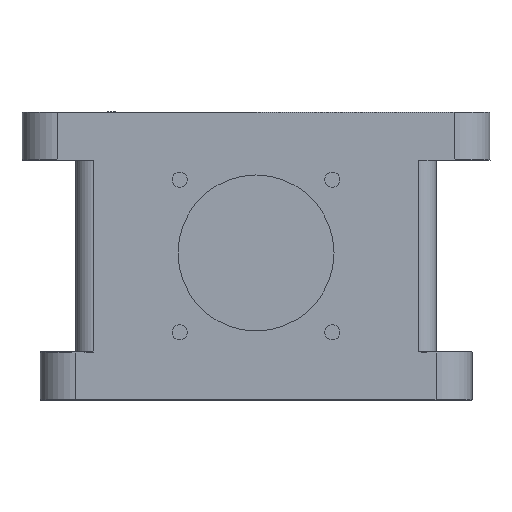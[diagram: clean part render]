
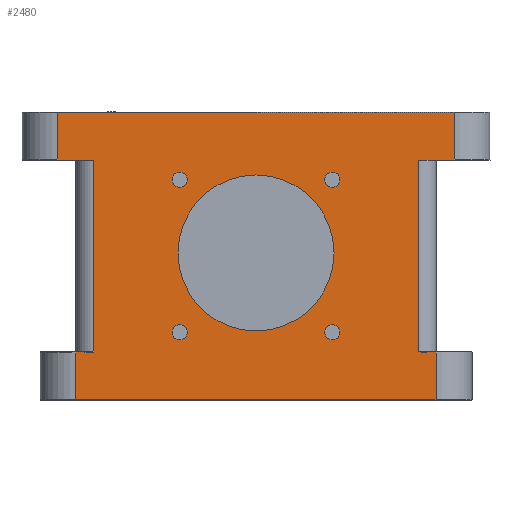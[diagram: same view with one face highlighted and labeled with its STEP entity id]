
A CAD part, left-side view. The second image highlights one B-rep face of the part: STEP entity #2480.
In plain terms, the highlighted planar face has unit normal (-1, 0, 0).
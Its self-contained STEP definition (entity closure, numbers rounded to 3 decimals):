
#969=CARTESIAN_POINT('',(-63.5,-30.,-24.));
#970=VERTEX_POINT('',#969);
#978=CARTESIAN_POINT('',(-63.5,30.,-24.));
#979=VERTEX_POINT('',#978);
#980=CARTESIAN_POINT('',(-63.5,-30.,-24.));
#981=DIRECTION('',(0.,1.,0.));
#982=VECTOR('',#981,60.);
#983=LINE('',#980,#982);
#984=EDGE_CURVE('',#970,#979,#983,.T.);
#1364=CARTESIAN_POINT('',(-63.5,-27.,-16.));
#1365=VERTEX_POINT('',#1364);
#1373=CARTESIAN_POINT('',(-63.5,-30.,-16.));
#1374=VERTEX_POINT('',#1373);
#1375=CARTESIAN_POINT('',(-63.5,-27.,-16.));
#1376=DIRECTION('',(0.,-1.,0.));
#1377=VECTOR('',#1376,3.);
#1378=LINE('',#1375,#1377);
#1379=EDGE_CURVE('',#1365,#1374,#1378,.T.);
#1473=CARTESIAN_POINT('',(-63.5,33.,24.));
#1474=VERTEX_POINT('',#1473);
#1483=CARTESIAN_POINT('',(-63.5,33.,16.));
#1484=VERTEX_POINT('',#1483);
#1492=CARTESIAN_POINT('',(-63.5,33.,16.));
#1493=DIRECTION('',(0.,0.,1.));
#1494=VECTOR('',#1493,8.);
#1495=LINE('',#1492,#1494);
#1496=EDGE_CURVE('',#1484,#1474,#1495,.T.);
#1506=CARTESIAN_POINT('',(-63.5,-33.,24.));
#1507=VERTEX_POINT('',#1506);
#1515=CARTESIAN_POINT('',(-63.5,-33.,16.));
#1516=VERTEX_POINT('',#1515);
#1517=CARTESIAN_POINT('',(-63.5,-33.,24.));
#1518=DIRECTION('',(0.,0.,-1.));
#1519=VECTOR('',#1518,8.);
#1520=LINE('',#1517,#1519);
#1521=EDGE_CURVE('',#1507,#1516,#1520,.T.);
#1654=CARTESIAN_POINT('',(-63.5,30.,-16.));
#1655=VERTEX_POINT('',#1654);
#1656=CARTESIAN_POINT('',(-63.5,30.,-24.));
#1657=DIRECTION('',(0.,0.,1.));
#1658=VECTOR('',#1657,8.);
#1659=LINE('',#1656,#1658);
#1660=EDGE_CURVE('',#979,#1655,#1659,.T.);
#1688=CARTESIAN_POINT('',(-63.5,-30.,-16.));
#1689=DIRECTION('',(0.,0.,-1.));
#1690=VECTOR('',#1689,8.);
#1691=LINE('',#1688,#1690);
#1692=EDGE_CURVE('',#1374,#970,#1691,.T.);
#1703=CARTESIAN_POINT('',(-63.5,-27.,16.));
#1704=VERTEX_POINT('',#1703);
#1705=CARTESIAN_POINT('',(-63.5,-27.,16.));
#1706=DIRECTION('',(0.,0.,-1.));
#1707=VECTOR('',#1706,32.);
#1708=LINE('',#1705,#1707);
#1709=EDGE_CURVE('',#1704,#1365,#1708,.T.);
#1809=CARTESIAN_POINT('',(-63.5,27.,-16.));
#1810=VERTEX_POINT('',#1809);
#1811=CARTESIAN_POINT('',(-63.5,27.,16.));
#1812=VERTEX_POINT('',#1811);
#1813=CARTESIAN_POINT('',(-63.5,27.,-16.));
#1814=DIRECTION('',(0.,0.,1.));
#1815=VECTOR('',#1814,32.);
#1816=LINE('',#1813,#1815);
#1817=EDGE_CURVE('',#1810,#1812,#1816,.T.);
#1908=CARTESIAN_POINT('',(-63.5,-13.,0.5));
#1909=VERTEX_POINT('',#1908);
#1927=CARTESIAN_POINT('',(-63.5,13.,0.5));
#1928=VERTEX_POINT('',#1927);
#1935=CARTESIAN_POINT('',(-63.5,0.,0.5));
#1936=DIRECTION('',(0.,1.,0.));
#1937=DIRECTION('',(-1.,0.,0.));
#1938=AXIS2_PLACEMENT_3D('',#1935,#1937,#1936);
#1939=CIRCLE('',#1938,13.);
#1940=EDGE_CURVE('',#1928,#1909,#1939,.T.);
#1950=CARTESIAN_POINT('',(-63.5,0.,0.5));
#1951=DIRECTION('',(0.,-1.,0.));
#1952=DIRECTION('',(-1.,0.,0.));
#1953=AXIS2_PLACEMENT_3D('',#1950,#1952,#1951);
#1954=CIRCLE('',#1953,13.);
#1955=EDGE_CURVE('',#1909,#1928,#1954,.T.);
#2207=CARTESIAN_POINT('',(-63.5,30.,-16.));
#2208=DIRECTION('',(0.,-1.,0.));
#2209=VECTOR('',#2208,3.);
#2210=LINE('',#2207,#2209);
#2211=EDGE_CURVE('',#1655,#1810,#2210,.T.);
#2362=CARTESIAN_POINT('',(-63.5,0.,0.));
#2363=DIRECTION('',(0.,1.,0.));
#2364=DIRECTION('',(-1.,0.,0.));
#2365=AXIS2_PLACEMENT_3D('',#2362,#2364,#2363);
#2366=PLANE('',#2365);
#2367=CARTESIAN_POINT('',(-63.5,33.,16.));
#2368=DIRECTION('',(0.,-1.,0.));
#2369=VECTOR('',#2368,6.);
#2370=LINE('',#2367,#2369);
#2371=EDGE_CURVE('',#1484,#1812,#2370,.T.);
#2372=ORIENTED_EDGE('E210',*,*,#2371,.T.);
#2373=ORIENTED_EDGE('E210',*,*,#1817,.F.);
#2374=ORIENTED_EDGE('E210',*,*,#2211,.F.);
#2375=ORIENTED_EDGE('E210',*,*,#1660,.F.);
#2376=ORIENTED_EDGE('E210',*,*,#984,.F.);
#2377=ORIENTED_EDGE('E210',*,*,#1692,.F.);
#2378=ORIENTED_EDGE('E210',*,*,#1379,.F.);
#2379=ORIENTED_EDGE('E210',*,*,#1709,.F.);
#2380=CARTESIAN_POINT('',(-63.5,-27.,16.));
#2381=DIRECTION('',(0.,-1.,0.));
#2382=VECTOR('',#2381,6.);
#2383=LINE('',#2380,#2382);
#2384=EDGE_CURVE('',#1704,#1516,#2383,.T.);
#2385=ORIENTED_EDGE('E211',*,*,#2384,.T.);
#2386=ORIENTED_EDGE('E211',*,*,#1521,.F.);
#2387=CARTESIAN_POINT('',(-63.5,-33.,24.));
#2388=DIRECTION('',(0.,1.,0.));
#2389=VECTOR('',#2388,66.);
#2390=LINE('',#2387,#2389);
#2391=EDGE_CURVE('',#1507,#1474,#2390,.T.);
#2392=ORIENTED_EDGE('E212',*,*,#2391,.T.);
#2393=ORIENTED_EDGE('E212',*,*,#1496,.F.);
#2394=EDGE_LOOP('',(#2372,#2373,#2374,#2375,#2376,#2377,#2378,#2379,#2385,#2386,#2392,#2393));
#2395=FACE_OUTER_BOUND('',#2394,.T.);
#2396=CARTESIAN_POINT('',(-63.5,-12.728,13.978));
#2397=VERTEX_POINT('',#2396);
#2398=CARTESIAN_POINT('',(-63.5,-12.728,11.478));
#2399=VERTEX_POINT('',#2398);
#2400=CARTESIAN_POINT('',(-63.5,-12.728,12.728));
#2401=DIRECTION('',(0.,0.,1.));
#2402=DIRECTION('',(1.,0.,0.));
#2403=AXIS2_PLACEMENT_3D('',#2400,#2402,#2401);
#2404=CIRCLE('',#2403,1.25);
#2405=EDGE_CURVE('',#2397,#2399,#2404,.T.);
#2406=ORIENTED_EDGE('E213',*,*,#2405,.T.);
#2407=CARTESIAN_POINT('',(-63.5,-12.728,12.728));
#2408=DIRECTION('',(0.,0.,-1.));
#2409=DIRECTION('',(1.,0.,0.));
#2410=AXIS2_PLACEMENT_3D('',#2407,#2409,#2408);
#2411=CIRCLE('',#2410,1.25);
#2412=EDGE_CURVE('',#2399,#2397,#2411,.T.);
#2413=ORIENTED_EDGE('E293',*,*,#2412,.T.);
#2414=EDGE_LOOP('',(#2406,#2413));
#2415=FACE_BOUND('',#2414,.T.);
#2416=CARTESIAN_POINT('',(-63.5,12.728,13.978));
#2417=VERTEX_POINT('',#2416);
#2418=CARTESIAN_POINT('',(-63.5,12.728,11.478));
#2419=VERTEX_POINT('',#2418);
#2420=CARTESIAN_POINT('',(-63.5,12.728,12.728));
#2421=DIRECTION('',(0.,0.,1.));
#2422=DIRECTION('',(1.,0.,0.));
#2423=AXIS2_PLACEMENT_3D('',#2420,#2422,#2421);
#2424=CIRCLE('',#2423,1.25);
#2425=EDGE_CURVE('',#2417,#2419,#2424,.T.);
#2426=ORIENTED_EDGE('E214',*,*,#2425,.T.);
#2427=CARTESIAN_POINT('',(-63.5,12.728,12.728));
#2428=DIRECTION('',(0.,0.,-1.));
#2429=DIRECTION('',(1.,0.,0.));
#2430=AXIS2_PLACEMENT_3D('',#2427,#2429,#2428);
#2431=CIRCLE('',#2430,1.25);
#2432=EDGE_CURVE('',#2419,#2417,#2431,.T.);
#2433=ORIENTED_EDGE('E292',*,*,#2432,.T.);
#2434=EDGE_LOOP('',(#2426,#2433));
#2435=FACE_BOUND('',#2434,.T.);
#2436=CARTESIAN_POINT('',(-63.5,-12.728,-11.478));
#2437=VERTEX_POINT('',#2436);
#2438=CARTESIAN_POINT('',(-63.5,-12.728,-13.978));
#2439=VERTEX_POINT('',#2438);
#2440=CARTESIAN_POINT('',(-63.5,-12.728,-12.728));
#2441=DIRECTION('',(0.,0.,1.));
#2442=DIRECTION('',(1.,0.,0.));
#2443=AXIS2_PLACEMENT_3D('',#2440,#2442,#2441);
#2444=CIRCLE('',#2443,1.25);
#2445=EDGE_CURVE('',#2437,#2439,#2444,.T.);
#2446=ORIENTED_EDGE('E215',*,*,#2445,.T.);
#2447=CARTESIAN_POINT('',(-63.5,-12.728,-12.728));
#2448=DIRECTION('',(0.,0.,-1.));
#2449=DIRECTION('',(1.,0.,0.));
#2450=AXIS2_PLACEMENT_3D('',#2447,#2449,#2448);
#2451=CIRCLE('',#2450,1.25);
#2452=EDGE_CURVE('',#2439,#2437,#2451,.T.);
#2453=ORIENTED_EDGE('E291',*,*,#2452,.T.);
#2454=EDGE_LOOP('',(#2446,#2453));
#2455=FACE_BOUND('',#2454,.T.);
#2456=CARTESIAN_POINT('',(-63.5,12.728,-11.478));
#2457=VERTEX_POINT('',#2456);
#2458=CARTESIAN_POINT('',(-63.5,12.728,-13.978));
#2459=VERTEX_POINT('',#2458);
#2460=CARTESIAN_POINT('',(-63.5,12.728,-12.728));
#2461=DIRECTION('',(0.,0.,1.));
#2462=DIRECTION('',(1.,0.,0.));
#2463=AXIS2_PLACEMENT_3D('',#2460,#2462,#2461);
#2464=CIRCLE('',#2463,1.25);
#2465=EDGE_CURVE('',#2457,#2459,#2464,.T.);
#2466=ORIENTED_EDGE('E216',*,*,#2465,.T.);
#2467=CARTESIAN_POINT('',(-63.5,12.728,-12.728));
#2468=DIRECTION('',(0.,0.,-1.));
#2469=DIRECTION('',(1.,0.,0.));
#2470=AXIS2_PLACEMENT_3D('',#2467,#2469,#2468);
#2471=CIRCLE('',#2470,1.25);
#2472=EDGE_CURVE('',#2459,#2457,#2471,.T.);
#2473=ORIENTED_EDGE('E290',*,*,#2472,.T.);
#2474=EDGE_LOOP('',(#2466,#2473));
#2475=FACE_BOUND('',#2474,.T.);
#2476=ORIENTED_EDGE('',*,*,#1940,.F.);
#2477=ORIENTED_EDGE('',*,*,#1955,.F.);
#2478=EDGE_LOOP('',(#2476,#2477));
#2479=FACE_BOUND('',#2478,.T.);
#2480=ADVANCED_FACE('F64',(#2395,#2415,#2435,#2455,#2475,#2479),#2366,.T.);
